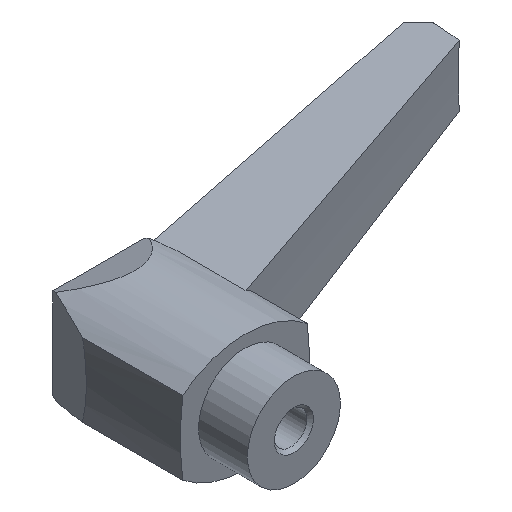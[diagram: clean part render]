
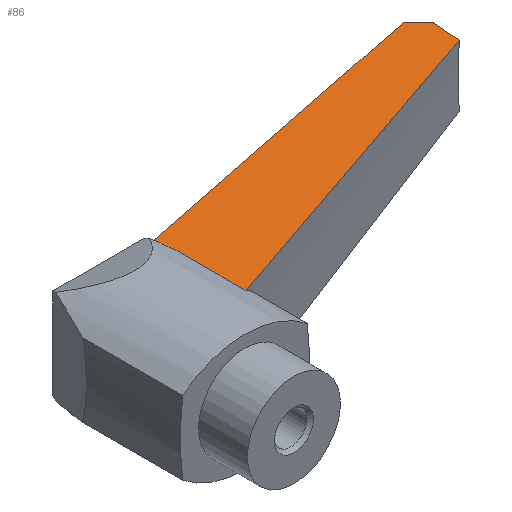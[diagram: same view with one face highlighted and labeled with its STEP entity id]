
A CAD part, isometric view. The second image highlights one B-rep face of the part: STEP entity #86.
In plain terms, the highlighted planar face has unit normal (0.035, 0, 0.999).
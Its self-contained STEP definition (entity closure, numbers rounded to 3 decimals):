
#86 = ADVANCED_FACE( '', ( #124 ), #125, .F. );
#124 = FACE_OUTER_BOUND( '', #181, .T. );
#125 = PLANE( '', #182 );
#181 = EDGE_LOOP( '', ( #299, #300, #301, #302, #303, #304 ) );
#182 = AXIS2_PLACEMENT_3D( '', #305, #306, #307 );
#299 = ORIENTED_EDGE( '', *, *, #425, .F. );
#300 = ORIENTED_EDGE( '', *, *, #400, .T. );
#301 = ORIENTED_EDGE( '', *, *, #408, .T. );
#302 = ORIENTED_EDGE( '', *, *, #423, .T. );
#303 = ORIENTED_EDGE( '', *, *, #420, .T. );
#304 = ORIENTED_EDGE( '', *, *, #418, .T. );
#305 = CARTESIAN_POINT( '', ( 0.158, 0., 9.074 ) );
#306 = DIRECTION( '', ( -0.035, 0., -0.999 ) );
#307 = DIRECTION( '', ( -0.999, 0., 0.035 ) );
#400 = EDGE_CURVE( '', #463, #461, #464, .T. );
#408 = EDGE_CURVE( '', #461, #476, #478, .T. );
#418 = EDGE_CURVE( '', #493, #491, #494, .T. );
#420 = EDGE_CURVE( '', #496, #493, #497, .T. );
#423 = EDGE_CURVE( '', #476, #496, #501, .T. );
#425 = EDGE_CURVE( '', #463, #491, #503, .T. );
#461 = VERTEX_POINT( '', #554 );
#463 = VERTEX_POINT( '', #559 );
#464 = LINE( '', #560, #561 );
#476 = VERTEX_POINT( '', #575 );
#478 = LINE( '', #577, #578 );
#491 = VERTEX_POINT( '', #599 );
#493 = VERTEX_POINT( '', #604 );
#494 = LINE( '', #605, #606 );
#496 = VERTEX_POINT( '', #608 );
#497 = LINE( '', #609, #610 );
#501 = LINE( '', #615, #616 );
#503 = LINE( '', #619, #620 );
#554 = CARTESIAN_POINT( '', ( 11.094, 20.887, 8.692 ) );
#559 = CARTESIAN_POINT( '', ( 11.094, 34.988, 8.692 ) );
#560 = CARTESIAN_POINT( '', ( 11.094, 40., 8.692 ) );
#561 = VECTOR( '', #669, 1000. );
#575 = CARTESIAN_POINT( '', ( 79.607, 45.839, 6.299 ) );
#577 = CARTESIAN_POINT( '', ( 1.158, 17.268, 9.039 ) );
#578 = VECTOR( '', #687, 1000. );
#599 = CARTESIAN_POINT( '', ( 9.635, 38.996, 8.743 ) );
#604 = CARTESIAN_POINT( '', ( 77.111, 54.584, 6.387 ) );
#605 = CARTESIAN_POINT( '', ( 77.111, 54.584, 6.387 ) );
#606 = VECTOR( '', #701, 1000. );
#608 = CARTESIAN_POINT( '', ( 80.11, 51.584, 6.282 ) );
#609 = CARTESIAN_POINT( '', ( 80.11, 51.584, 6.282 ) );
#610 = VECTOR( '', #705, 1000. );
#615 = CARTESIAN_POINT( '', ( 79.607, 45.839, 6.299 ) );
#616 = VECTOR( '', #710, 1000. );
#619 = CARTESIAN_POINT( '', ( 8.099, 43.216, 8.797 ) );
#620 = VECTOR( '', #712, 1000. );
#669 = DIRECTION( '', ( 0., -1., 0. ) );
#687 = DIRECTION( '', ( 0.939, 0.342, -0.033 ) );
#701 = DIRECTION( '', ( -0.974, -0.225, 0.034 ) );
#705 = DIRECTION( '', ( -0.707, 0.707, 0.025 ) );
#710 = DIRECTION( '', ( 0.087, 0.996, -0.003 ) );
#712 = DIRECTION( '', ( -0.342, 0.94, 0.012 ) );
